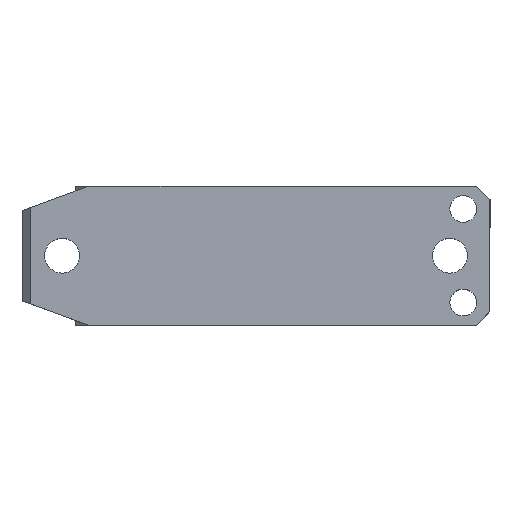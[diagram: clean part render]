
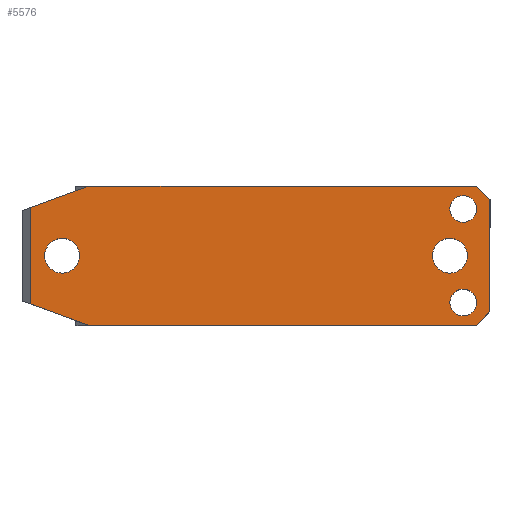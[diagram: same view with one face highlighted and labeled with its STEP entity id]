
A CAD part, top view. The second image highlights one B-rep face of the part: STEP entity #5576.
In plain terms, the highlighted planar face has unit normal (0, 0, 1).
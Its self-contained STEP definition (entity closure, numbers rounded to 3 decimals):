
#9 = EDGE_CURVE ( 'NONE', #6573, #7908, #11953, .T. ) ;
#32 = CIRCLE ( 'NONE', #2899, 5. ) ;
#89 = CARTESIAN_POINT ( 'NONE',  ( 128., -17.5, 125. ) ) ;
#190 = VERTEX_POINT ( 'NONE', #10062 ) ;
#191 = CARTESIAN_POINT ( 'NONE',  ( 123., 17.5, 125. ) ) ;
#320 = EDGE_CURVE ( 'NONE', #4782, #2238, #1381, .T. ) ;
#345 = CARTESIAN_POINT ( 'NONE',  ( 133., -21., 125. ) ) ;
#382 = FACE_BOUND ( 'NONE', #5504, .T. ) ;
#388 = DIRECTION ( 'NONE',  ( 0., 0., -1. ) ) ;
#440 = VERTEX_POINT ( 'NONE', #10713 ) ;
#501 = VECTOR ( 'NONE', #8112, 1000. ) ;
#604 = EDGE_LOOP ( 'NONE', ( #3848, #9545 ) ) ;
#650 = CARTESIAN_POINT ( 'NONE',  ( -42., -26., 125. ) ) ;
#661 = FACE_BOUND ( 'NONE', #604, .T. ) ;
#790 = DIRECTION ( 'NONE',  ( 0., -1., 0. ) ) ;
#794 = CARTESIAN_POINT ( 'NONE',  ( -27., 0., 125. ) ) ;
#852 = EDGE_CURVE ( 'NONE', #4782, #4362, #5405, .T. ) ;
#897 = ORIENTED_EDGE ( 'NONE', *, *, #1572, .F. ) ;
#912 = VERTEX_POINT ( 'NONE', #8124 ) ;
#914 = DIRECTION ( 'NONE',  ( 1., 0., 0. ) ) ;
#1038 = PLANE ( 'NONE',  #9645 ) ;
#1141 = EDGE_CURVE ( 'NONE', #440, #11217, #4384, .T. ) ;
#1381 = LINE ( 'NONE', #8030, #3832 ) ;
#1419 = CARTESIAN_POINT ( 'NONE',  ( -17., -26., 125. ) ) ;
#1477 = CARTESIAN_POINT ( 'NONE',  ( -39., 17.993, 125. ) ) ;
#1564 = CARTESIAN_POINT ( 'NONE',  ( -39., -17.993, 125. ) ) ;
#1572 = EDGE_CURVE ( 'NONE', #6455, #5678, #4667, .T. ) ;
#1578 = EDGE_CURVE ( 'NONE', #3646, #7987, #32, .T. ) ;
#1658 = EDGE_CURVE ( 'NONE', #10251, #190, #11188, .T. ) ;
#1670 = ORIENTED_EDGE ( 'NONE', *, *, #1141, .T. ) ;
#1725 = DIRECTION ( 'NONE',  ( -1., 0., 0. ) ) ;
#1784 = EDGE_CURVE ( 'NONE', #912, #11052, #5384, .T. ) ;
#1846 = CARTESIAN_POINT ( 'NONE',  ( -42., 26., 125. ) ) ;
#1960 = CARTESIAN_POINT ( 'NONE',  ( -42., 26., 125. ) ) ;
#1988 = CARTESIAN_POINT ( 'NONE',  ( -39., 26., 125. ) ) ;
#2080 = AXIS2_PLACEMENT_3D ( 'NONE', #2806, #9261, #3727 ) ;
#2103 = CARTESIAN_POINT ( 'NONE',  ( 128., -26., 125. ) ) ;
#2238 = VERTEX_POINT ( 'NONE', #1564 ) ;
#2283 = AXIS2_PLACEMENT_3D ( 'NONE', #5949, #388, #6887 ) ;
#2654 = VECTOR ( 'NONE', #3402, 1000. ) ;
#2667 = DIRECTION ( 'NONE',  ( 0., 0., -1. ) ) ;
#2806 = CARTESIAN_POINT ( 'NONE',  ( 123., -17.5, 125. ) ) ;
#2836 = EDGE_CURVE ( 'NONE', #11217, #440, #7689, .T. ) ;
#2841 = FACE_BOUND ( 'NONE', #11770, .T. ) ;
#2886 = DIRECTION ( 'NONE',  ( 0., 0., -1. ) ) ;
#2899 = AXIS2_PLACEMENT_3D ( 'NONE', #9102, #3575, #10032 ) ;
#3085 = EDGE_LOOP ( 'NONE', ( #5224, #4714, #6380, #8996, #8076, #897, #7274, #9753 ) ) ;
#3132 = FACE_BOUND ( 'NONE', #11174, .T. ) ;
#3150 = CARTESIAN_POINT ( 'NONE',  ( -33.5, 0., 125. ) ) ;
#3191 = CARTESIAN_POINT ( 'NONE',  ( 128., 17.5, 125. ) ) ;
#3293 = LINE ( 'NONE', #11654, #9779 ) ;
#3340 = VERTEX_POINT ( 'NONE', #1477 ) ;
#3402 = DIRECTION ( 'NONE',  ( 1., 0., 0. ) ) ;
#3542 = AXIS2_PLACEMENT_3D ( 'NONE', #794, #7279, #1725 ) ;
#3575 = DIRECTION ( 'NONE',  ( 0., 0., -1. ) ) ;
#3583 = EDGE_CURVE ( 'NONE', #7987, #3646, #9365, .T. ) ;
#3646 = VERTEX_POINT ( 'NONE', #89 ) ;
#3727 = DIRECTION ( 'NONE',  ( -1., 0., 0. ) ) ;
#3791 = VECTOR ( 'NONE', #914, 1000. ) ;
#3832 = VECTOR ( 'NONE', #11736, 1000. ) ;
#3848 = ORIENTED_EDGE ( 'NONE', *, *, #6812, .T. ) ;
#3881 = VECTOR ( 'NONE', #5043, 1000. ) ;
#4338 = CARTESIAN_POINT ( 'NONE',  ( 118., 0., 125. ) ) ;
#4362 = VERTEX_POINT ( 'NONE', #2103 ) ;
#4384 = CIRCLE ( 'NONE', #6481, 6.5 ) ;
#4530 = AXIS2_PLACEMENT_3D ( 'NONE', #8191, #2667, #9113 ) ;
#4667 = LINE ( 'NONE', #6349, #9570 ) ;
#4714 = ORIENTED_EDGE ( 'NONE', *, *, #6391, .T. ) ;
#4777 = DIRECTION ( 'NONE',  ( 0., 0., -1. ) ) ;
#4782 = VERTEX_POINT ( 'NONE', #1419 ) ;
#4918 = AXIS2_PLACEMENT_3D ( 'NONE', #191, #11285, #5743 ) ;
#5043 = DIRECTION ( 'NONE',  ( -0.707, -0.707, 0. ) ) ;
#5224 = ORIENTED_EDGE ( 'NONE', *, *, #11435, .F. ) ;
#5274 = DIRECTION ( 'NONE',  ( -1., 0., 0. ) ) ;
#5384 = CIRCLE ( 'NONE', #4530, 6.5 ) ;
#5405 = LINE ( 'NONE', #650, #2654 ) ;
#5504 = EDGE_LOOP ( 'NONE', ( #5974, #11678 ) ) ;
#5566 = CARTESIAN_POINT ( 'NONE',  ( -17., 26., 125. ) ) ;
#5576 = ADVANCED_FACE ( 'NONE', ( #382, #3132, #661, #2841, #9898 ), #1038, .F. ) ;
#5678 = VERTEX_POINT ( 'NONE', #345 ) ;
#5743 = DIRECTION ( 'NONE',  ( -1., 0., 0. ) ) ;
#5801 = LINE ( 'NONE', #1988, #7387 ) ;
#5949 = CARTESIAN_POINT ( 'NONE',  ( 123., 17.5, 125. ) ) ;
#5974 = ORIENTED_EDGE ( 'NONE', *, *, #3583, .T. ) ;
#6101 = DIRECTION ( 'NONE',  ( 0.707, -0.707, 0. ) ) ;
#6349 = CARTESIAN_POINT ( 'NONE',  ( 133., 26., 125. ) ) ;
#6380 = ORIENTED_EDGE ( 'NONE', *, *, #320, .F. ) ;
#6391 = EDGE_CURVE ( 'NONE', #3340, #2238, #5801, .T. ) ;
#6455 = VERTEX_POINT ( 'NONE', #9453 ) ;
#6481 = AXIS2_PLACEMENT_3D ( 'NONE', #10302, #4777, #11255 ) ;
#6573 = VERTEX_POINT ( 'NONE', #3191 ) ;
#6812 = EDGE_CURVE ( 'NONE', #11052, #912, #8210, .T. ) ;
#6887 = DIRECTION ( 'NONE',  ( -1., 0., 0. ) ) ;
#7201 = CARTESIAN_POINT ( 'NONE',  ( -42., 16.901, 125. ) ) ;
#7227 = EDGE_CURVE ( 'NONE', #5678, #4362, #8504, .T. ) ;
#7274 = ORIENTED_EDGE ( 'NONE', *, *, #7317, .F. ) ;
#7279 = DIRECTION ( 'NONE',  ( 0., 0., -1. ) ) ;
#7317 = EDGE_CURVE ( 'NONE', #190, #6455, #3293, .T. ) ;
#7387 = VECTOR ( 'NONE', #9370, 1000. ) ;
#7689 = CIRCLE ( 'NONE', #11066, 6.5 ) ;
#7806 = CARTESIAN_POINT ( 'NONE',  ( 128., -26., 125. ) ) ;
#7898 = LINE ( 'NONE', #7201, #501 ) ;
#7908 = VERTEX_POINT ( 'NONE', #11637 ) ;
#7916 = ORIENTED_EDGE ( 'NONE', *, *, #11839, .T. ) ;
#7987 = VERTEX_POINT ( 'NONE', #8008 ) ;
#8008 = CARTESIAN_POINT ( 'NONE',  ( 118., -17.5, 125. ) ) ;
#8030 = CARTESIAN_POINT ( 'NONE',  ( -42., -16.901, 125. ) ) ;
#8076 = ORIENTED_EDGE ( 'NONE', *, *, #7227, .F. ) ;
#8112 = DIRECTION ( 'NONE',  ( 0.94, 0.342, 0. ) ) ;
#8124 = CARTESIAN_POINT ( 'NONE',  ( -20.5, 0., 125. ) ) ;
#8191 = CARTESIAN_POINT ( 'NONE',  ( -27., 0., 125. ) ) ;
#8210 = CIRCLE ( 'NONE', #3542, 6.5 ) ;
#8504 = LINE ( 'NONE', #7806, #3881 ) ;
#8654 = CARTESIAN_POINT ( 'NONE',  ( 124.5, 0., 125. ) ) ;
#8996 = ORIENTED_EDGE ( 'NONE', *, *, #852, .T. ) ;
#9018 = CIRCLE ( 'NONE', #2283, 5. ) ;
#9102 = CARTESIAN_POINT ( 'NONE',  ( 123., -17.5, 125. ) ) ;
#9113 = DIRECTION ( 'NONE',  ( -1., 0., 0. ) ) ;
#9261 = DIRECTION ( 'NONE',  ( 0., 0., -1. ) ) ;
#9350 = DIRECTION ( 'NONE',  ( -1., 0., 0. ) ) ;
#9365 = CIRCLE ( 'NONE', #2080, 5. ) ;
#9370 = DIRECTION ( 'NONE',  ( 0., -1., 0. ) ) ;
#9453 = CARTESIAN_POINT ( 'NONE',  ( 133., 21., 125. ) ) ;
#9545 = ORIENTED_EDGE ( 'NONE', *, *, #1784, .T. ) ;
#9570 = VECTOR ( 'NONE', #790, 1000. ) ;
#9645 = AXIS2_PLACEMENT_3D ( 'NONE', #1960, #2886, #9350 ) ;
#9753 = ORIENTED_EDGE ( 'NONE', *, *, #1658, .F. ) ;
#9779 = VECTOR ( 'NONE', #6101, 1000. ) ;
#9898 = FACE_OUTER_BOUND ( 'NONE', #3085, .T. ) ;
#10032 = DIRECTION ( 'NONE',  ( -1., 0., 0. ) ) ;
#10062 = CARTESIAN_POINT ( 'NONE',  ( 128., 26., 125. ) ) ;
#10251 = VERTEX_POINT ( 'NONE', #5566 ) ;
#10302 = CARTESIAN_POINT ( 'NONE',  ( 118., 0., 125. ) ) ;
#10555 = ORIENTED_EDGE ( 'NONE', *, *, #2836, .T. ) ;
#10713 = CARTESIAN_POINT ( 'NONE',  ( 111.5, 0., 125. ) ) ;
#10823 = DIRECTION ( 'NONE',  ( 0., 0., -1. ) ) ;
#11052 = VERTEX_POINT ( 'NONE', #3150 ) ;
#11062 = ORIENTED_EDGE ( 'NONE', *, *, #9, .T. ) ;
#11066 = AXIS2_PLACEMENT_3D ( 'NONE', #4338, #10823, #5274 ) ;
#11174 = EDGE_LOOP ( 'NONE', ( #7916, #11062 ) ) ;
#11188 = LINE ( 'NONE', #1846, #3791 ) ;
#11217 = VERTEX_POINT ( 'NONE', #8654 ) ;
#11255 = DIRECTION ( 'NONE',  ( -1., 0., 0. ) ) ;
#11285 = DIRECTION ( 'NONE',  ( 0., 0., -1. ) ) ;
#11435 = EDGE_CURVE ( 'NONE', #3340, #10251, #7898, .T. ) ;
#11637 = CARTESIAN_POINT ( 'NONE',  ( 118., 17.5, 125. ) ) ;
#11654 = CARTESIAN_POINT ( 'NONE',  ( 128., 26., 125. ) ) ;
#11678 = ORIENTED_EDGE ( 'NONE', *, *, #1578, .T. ) ;
#11736 = DIRECTION ( 'NONE',  ( -0.94, 0.342, 0. ) ) ;
#11770 = EDGE_LOOP ( 'NONE', ( #1670, #10555 ) ) ;
#11839 = EDGE_CURVE ( 'NONE', #7908, #6573, #9018, .T. ) ;
#11953 = CIRCLE ( 'NONE', #4918, 5. ) ;
